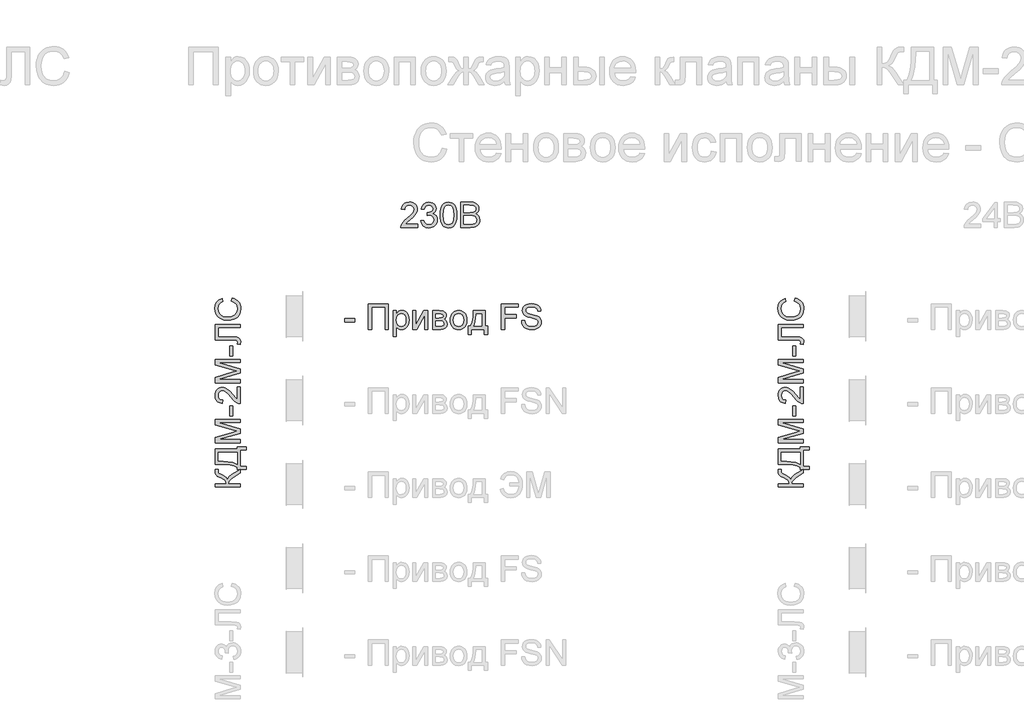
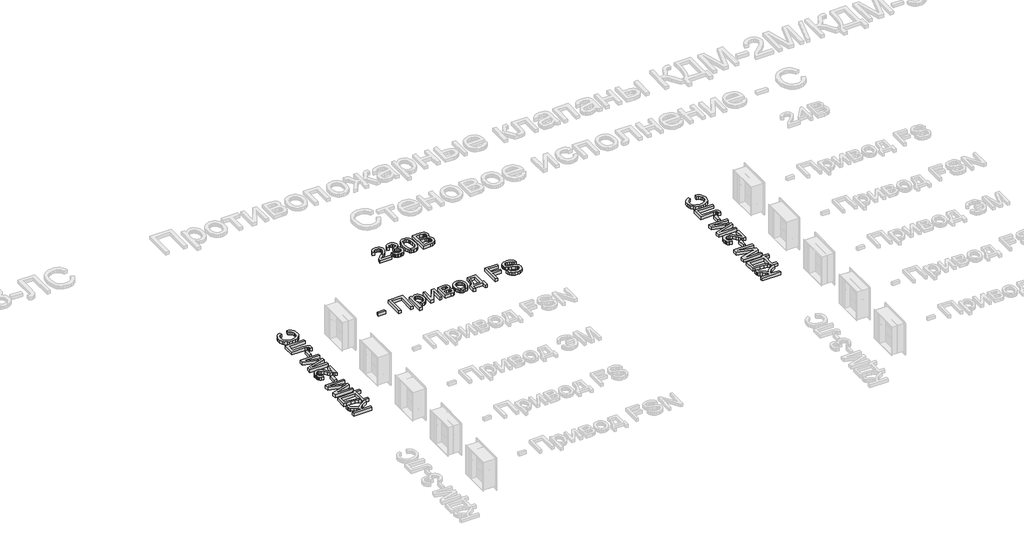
# One storey, part 15 of 23: 4 proxies.
"""IFC4 building model written with IfcOpenShell, lengths in millimetres."""

from ifc_helpers import new_model, si_unit, origin, origin_with_axes, place, context, project, spatial, polyline, outline, extrude, element, save

model = new_model("IFC4")

# Units and contexts
model_context = context("Model", 3, world=origin())
ifc_project = project(units=[si_unit("LENGTHUNIT", "METRE", prefix="MILLI")], contexts=[model_context])

# Site, building, storey
site = spatial("IfcSite", under=ifc_project)
building = spatial("IfcBuilding", under=site)
storey = spatial("IfcBuildingStorey", under=building, Name="Этаж 01", Elevation=0.0)

# Proxies
placement = place(None, origin())
element("IfcBuildingElementProxy", 1, Name="300 мм Arial", ObjectType="300 мм Arial", at=placement, inside=storey, context=model_context, shape_type="SweptSolid", body=[
    extrude(outline(polyline([(17804.7738082, -15034.3206311), (17804.7738082, -14996.6495148), (17922.4960467, -14996.6495148), (17922.4960467, -15034.3206311), (17804.7738082, -15034.3206311)])), origin_with_axes(), (0.0, 0.0, 1.0), 50.0),
    extrude(outline(polyline([(18087.3071805, -14822.4206019), (18322.7516574, -14822.4206019), (18322.7516574, -15123.7895324), (18285.0805411, -15123.7895324), (18285.0805411, -14860.0917182), (18124.9782968, -14860.0917182), (18124.9782968, -15123.7895324), (18087.3071805, -15123.7895324), (18087.3071805, -14822.4206019)])), origin_with_axes(), (0.0, 0.0, 1.0), 50.0),
    extrude(outline(polyline([(18383.9672214, -15208.5495441), (18383.9672214, -14902.4717241), (18421.6383378, -14902.4717241), (18421.6383378, -14939.4070764), (18433.9255964, -14921.1877206), (18447.684383, -14908.173895), (18463.724038, -14900.3655996), (18482.8539017, -14897.7628345), (18508.3297299, -14901.4048663), (18530.6049847, -14912.3309615), (18548.7415671, -14929.8789327), (18561.8013779, -14953.3865922), (18569.6924467, -14981.1432887), (18572.322803, -15011.438371), (18569.3521559, -15043.6556368), (18560.4402145, -15072.469994), (18545.8720875, -15096.4191119), (18525.9328834, -15114.0406595), (18502.7103324, -15124.8839813), (18478.292165, -15128.4984219), (18460.9741201, -15126.0795978), (18445.5138792, -15118.8231254), (18432.2793245, -15107.869439), (18421.6383378, -15094.3589728), (18421.6383378, -15208.5495441), (18383.9672214, -15208.5495441)]), holes=[polyline([(18421.6383378, -15014.8964618), (18425.7126308, -15048.668029), (18437.9355101, -15072.286053), (18455.970925, -15086.1919925), (18477.4828246, -15090.8273056), (18499.3442122, -15086.0264456), (18517.8394795, -15071.6238655), (18530.4486349, -15047.1413187), (18534.6516867, -15012.1005586), (18530.5498024, -14978.5129325), (18518.2441497, -14954.5638146), (18500.236326, -14940.2164168), (18479.027929, -14935.4339508), (18457.7367585, -14940.5199194), (18439.0391561, -14955.7778252), (18425.9885423, -14980.7294215), (18421.6383378, -15014.8964618)])]), origin_with_axes(), (0.0, 0.0, 1.0), 50.0),
    extrude(outline(polyline([(18614.7028088, -14902.4717241), (18652.3739251, -14902.4717241), (18652.3739251, -15071.2559835), (18744.9330351, -14902.4717241), (18793.6406113, -14902.4717241), (18793.6406113, -15123.7895324), (18755.969495, -15123.7895324), (18755.969495, -14956.0353426), (18663.9989962, -15123.7895324), (18614.7028088, -15123.7895324), (18614.7028088, -14902.4717241)])), origin_with_axes(), (0.0, 0.0, 1.0), 50.0),
    extrude(outline(polyline([(18850.1472857, -14902.4717241), (18933.1414638, -14902.4717241), (18959.8221055, -14903.7317199), (18978.6484666, -14907.5117074), (18992.4992238, -14914.6486181), (19004.2530535, -14925.9793836), (19012.2820781, -14940.7406486), (19014.9584196, -14958.1690581), (19013.3397388, -14972.2129533), (19008.4836965, -14984.325468), (19000.3718985, -14994.5617845), (18988.9859507, -15002.9770852), (19002.9286783, -15010.8037746), (19014.296232, -15023.3945359), (19021.856207, -15039.7560876), (19024.3761986, -15058.8951484), (19017.993446, -15087.6083381), (19002.8183137, -15107.8234538), (18978.7956194, -15119.7980127), (18945.8701809, -15123.7895324), (18850.1472857, -15123.7895324), (18850.1472857, -14902.4717241)]), holes=[polyline([(18887.818402, -15086.1184161), (18934.0243806, -15086.1184161), (18959.2059032, -15084.4169618), (18975.0064349, -15079.3125992), (18983.4861149, -15070.0327758), (18986.7050823, -15055.8049397), (18985.0955986, -15046.3779635), (18980.2671474, -15037.6683573), (18972.8543252, -15030.8533433), (18963.4917284, -15027.110144), (18930.3455607, -15024.9028521), (18887.818402, -15024.9028521), (18887.818402, -15086.1184161)]), polyline([(18887.818402, -14987.2317358), (18925.04806, -14987.2317358), (18955.7662065, -14985.3187494), (18970.7022156, -14977.6668039), (18975.6410313, -14971.3392336), (18977.2873033, -14963.8344409), (18974.3994296, -14952.5956459), (18965.7358086, -14945.3667647), (18950.0824297, -14941.4488215), (18926.2252823, -14940.1428404), (18887.818402, -14940.1428404), (18887.818402, -14987.2317358)])]), origin_with_axes(), (0.0, 0.0, 1.0), 50.0),
    extrude(outline(polyline([(19062.047315, -15013.1306282), (19064.0844615, -14984.4680223), (19070.1959011, -14959.7693448), (19080.3816339, -14939.0345959), (19094.6416597, -14922.2637754), (19108.9982546, -14911.5446138), (19124.8447715, -14903.8880698), (19142.1812106, -14899.2941433), (19161.0075717, -14897.7628345), (19181.7906051, -14899.6275364), (19200.5824773, -14905.221642), (19217.3831882, -14914.5451513), (19232.1927377, -14927.5980643), (19244.2799605, -14943.9389227), (19252.9136911, -14963.126268), (19258.0939294, -14985.1601003), (19259.8206756, -15010.0404195), (19256.767255, -15048.0978119), (19247.6069933, -15077.068519), (19232.606605, -15098.7643596), (19212.0328044, -15114.9971527), (19187.5962429, -15125.1231046), (19161.0075717, -15128.4984219), (19139.9210355, -15126.6406178), (19120.9544194, -15121.0672056), (19104.1077233, -15111.7781852), (19089.3809472, -15098.7735567), (19077.4224831, -15082.2740492), (19068.880723, -15062.500392), (19063.755667, -15039.452585), (19062.047315, -15013.1306282)]), holes=[polyline([(19099.7184313, -15013.0570518), (19104.0778329, -15047.1505157), (19117.1560378, -15071.4399245), (19136.8377246, -15085.9804603), (19161.0075717, -15090.8273056), (19185.0670541, -15085.9528692), (19204.7119527, -15071.3295599), (19217.7901576, -15046.7182544), (19222.1495593, -15011.8798294), (19217.7625665, -14978.7796469), (19204.6015881, -14954.821332), (19184.9290984, -14940.2807961), (19161.0075717, -14935.4339508), (19136.8377246, -14940.262402), (19117.1560378, -14954.7477556), (19104.0778329, -14978.981982), (19099.7184313, -15013.0570518)])]), origin_with_axes(), (0.0, 0.0, 1.0), 50.0),
    extrude(outline(polyline([(19335.1629082, -14902.4717241), (19476.4295943, -14902.4717241), (19476.4295943, -15086.1184161), (19504.6829316, -15086.1184161), (19504.6829316, -15185.0050964), (19467.0118152, -15185.0050964), (19467.0118152, -15123.7895324), (19311.6184605, -15123.7895324), (19311.6184605, -15185.0050964), (19273.9473442, -15185.0050964), (19273.9473442, -15086.1184161), (19297.4917919, -15086.1184161), (19314.6075017, -15055.1887373), (19326.5912577, -15014.2710624), (19333.4430598, -14963.3653913), (19335.1629082, -14902.4717241)]), holes=[polyline([(19368.1251349, -14940.1428404), (19365.0349262, -14986.2660455), (19359.2959671, -15025.9697099), (19350.9082576, -15059.2538334), (19339.8717977, -15086.1184161), (19438.758478, -15086.1184161), (19438.758478, -14940.1428404), (19368.1251349, -14940.1428404)])]), origin_with_axes(), (0.0, 0.0, 1.0), 50.0),
    extrude(outline(polyline([(19669.4940654, -15123.7895324), (19669.4940654, -14822.4206019), (19871.9763155, -14822.4206019), (19871.9763155, -14860.0917182), (19707.1651817, -14860.0917182), (19707.1651817, -14949.5606195), (19848.4318678, -14949.5606195), (19848.4318678, -14987.2317358), (19707.1651817, -14987.2317358), (19707.1651817, -15123.7895324), (19669.4940654, -15123.7895324)])), origin_with_axes(), (0.0, 0.0, 1.0), 50.0),
    extrude(outline(polyline([(19909.6474318, -15020.1939625), (19947.3185481, -15020.1939625), (19951.6411616, -15041.0988569), (19959.458654, -15057.901867), (19971.6539421, -15071.2375894), (19989.1099428, -15081.7406203), (20010.4470985, -15088.5556343), (20034.2858518, -15090.8273056), (20055.2735196, -15089.1074573), (20073.6492253, -15083.9479123), (20088.539249, -15075.780932), (20099.0698712, -15065.0387777), (20105.3330621, -15052.7055339), (20107.4207924, -15039.7652847), (20105.857294, -15027.1561293), (20101.1667985, -15016.2576252), (20091.6386549, -15006.9594078), (20075.5622117, -14999.1511124), (20020.7110062, -14984.7669264), (19984.7045559, -14975.2479798), (19961.665946, -14966.1888856), (19942.9131613, -14953.5153509), (19929.6234242, -14938.1562776), (19921.7047642, -14920.4427595), (19919.0652109, -14900.7058905), (19922.3301636, -14878.6421678), (19932.1250217, -14858.0683673), (19948.1922679, -14840.6307607), (19970.2743846, -14827.97562), (19996.7802824, -14820.2776893), (20026.1188715, -14817.7117124), (20057.9038759, -14820.3972509), (20085.7157547, -14828.4538666), (20108.5612266, -14841.7160126), (20125.4470102, -14860.0181418), (20136.1339822, -14882.2198202), (20140.3830192, -14907.1806136), (20102.7119029, -14907.1806136), (20095.7957214, -14884.7030237), (20081.3747472, -14868.4794277), (20058.841975, -14858.6569784), (20027.5903995, -14855.3828287), (19995.60306, -14858.6201902), (19973.658899, -14868.3322749), (19960.9669702, -14882.6244904), (19956.7363272, -14899.6022445), (19959.7345655, -14914.078401), (19968.7292803, -14925.7218662), (19989.9928596, -14936.1329266), (20030.2391499, -14946.7647163), (20071.7730271, -14956.8630771), (20096.8993674, -14965.6738508), (20118.3744789, -14979.340667), (20133.3564731, -14996.2080564), (20142.1580498, -15016.0920783), (20145.0919088, -15038.8087915), (20141.7165914, -15062.0313424), (20131.5906395, -15083.8743359), (20115.1279202, -15102.6731058), (20092.7423008, -15116.7629863), (20065.8225358, -15125.564563), (20035.7573798, -15128.4984219), (19998.8496186, -15125.3346367), (19968.4717629, -15115.8432813), (19944.2743246, -15099.9875673), (19925.907816, -15077.7307066), (19914.1171981, -15050.6178035), (19909.6474318, -15020.1939625)])), origin_with_axes(), (0.0, 0.0, 1.0), 50.0),
])
element("IfcBuildingElementProxy", 2, Name="300 мм Arial", ObjectType="300 мм Arial", at=placement, inside=storey, context=model_context, shape_type="SweptSolid", body=[
    extrude(outline(polyline([(16262.355345, -17002.4984014), (16262.355345, -16964.8272851), (16394.2042521, -16964.8272851), (16391.7118516, -16939.3238658), (16384.23465, -16922.7047967), (16366.6406936, -16909.2679068), (16333.7980285, -16893.3110252), (16291.6755401, -16872.5256925), (16280.2620012, -16862.5009082), (16270.8166309, -16848.9812448), (16264.4706665, -16832.9323928), (16262.355345, -16815.3200423), (16262.7968034, -16790.5983722), (16300.4679197, -16790.5983722), (16300.2471905, -16798.9125053), (16300.0264613, -16807.2266384), (16302.2889356, -16824.4803039), (16309.0763584, -16836.657198), (16323.3317857, -16847.1418349), (16347.8511207, -16859.0244233), (16378.3853263, -16873.6017474), (16395.0871689, -16885.6958679), (16410.6853655, -16911.705125), (16416.8933742, -16897.1140054), (16427.7183019, -16882.6240533), (16463.2189144, -16853.9476518), (16563.7242755, -16790.5983722), (16563.7242755, -16834.3027532), (16478.817111, -16887.8663717), (16451.5846463, -16908.5505369), (16434.4873306, -16925.5742762), (16425.4650246, -16942.9842916), (16422.4575893, -16964.8272851), (16563.7242755, -16964.8272851), (16563.7242755, -17002.4984014), (16262.355345, -17002.4984014)])), origin_with_axes(), (0.0, 0.0, 1.0), 50.0),
    extrude(outline(polyline([(16262.355345, -16729.3828082), (16262.355345, -16550.4450057), (16526.0531592, -16550.4450057), (16526.0531592, -16522.1916685), (16634.3576186, -16522.1916685), (16634.3576186, -16559.8627848), (16563.7242755, -16559.8627848), (16563.7242755, -16752.9272559), (16634.3576186, -16752.9272559), (16634.3576186, -16790.5983722), (16563.7242755, -16790.5983722), (16526.0531592, -16790.5983722), (16526.0531592, -16767.0539245), (16491.8815204, -16750.5728111), (16443.8131392, -16738.8005873), (16381.8480156, -16731.737253), (16305.9861497, -16729.3828082), (16262.355345, -16729.3828082)]), holes=[polyline([(16300.0264613, -16588.116122), (16300.0264613, -16691.7116919), (16315.1831995, -16691.7116919), (16418.4108874, -16699.3636374), (16478.0629529, -16710.6944028), (16526.0531592, -16729.3828082), (16526.0531592, -16588.116122), (16300.0264613, -16588.116122)])]), origin_with_axes(), (0.0, 0.0, 1.0), 50.0),
    extrude(outline(polyline([(16563.7242755, -16475.1027731), (16262.355345, -16475.1027731), (16262.355345, -16410.2819656), (16474.7704091, -16348.6249432), (16519.1369777, -16336.1905318), (16471.0915891, -16322.7260507), (16262.355345, -16262.0990979), (16262.355345, -16197.2782904), (16563.7242755, -16197.2782904), (16563.7242755, -16234.9494067), (16300.0264613, -16234.9494067), (16563.7242755, -16310.6595213), (16563.7242755, -16361.7215422), (16300.0264613, -16437.4316568), (16563.7242755, -16437.4316568), (16563.7242755, -16475.1027731)])), origin_with_axes(), (0.0, 0.0, 1.0), 50.0),
    extrude(outline(polyline([(16474.2553743, -16154.8982845), (16436.584258, -16154.8982845), (16436.584258, -16037.1760461), (16474.2553743, -16037.1760461), (16474.2553743, -16154.8982845)])), origin_with_axes(), (0.0, 0.0, 1.0), 50.0),
    extrude(outline(polyline([(16526.0531592, -15811.1493482), (16563.7242755, -15811.1493482), (16563.7242755, -16008.9227088), (16537.7518066, -16004.8760069), (16517.4539175, -15995.5869865), (16497.7630338, -15981.9937468), (16477.152445, -15962.3304542), (16454.0954409, -15934.831275), (16417.9878231, -15894.1803145), (16391.3347725, -15869.7897383), (16369.7033112, -15857.5944501), (16348.6604611, -15853.5293541), (16329.7973118, -15857.3645239), (16314.1163418, -15868.8700333), (16303.5489314, -15886.5559602), (16300.0264613, -15908.9323826), (16303.466158, -15932.430845), (16313.785248, -15950.686989), (16330.1743908, -15962.4684099), (16351.8242463, -15966.542703), (16347.1153567, -16004.2138193), (16310.6766451, -15995.0811488), (16296.1407078, -15986.5347902), (16284.0603828, -15975.3350827), (16274.5644288, -15961.7395437), (16267.7816045, -15946.0056906), (16262.355345, -15908.1230422), (16263.8636612, -15887.9332184), (16268.3886098, -15869.9644822), (16275.9301907, -15854.2168336), (16286.4884039, -15840.6902724), (16299.2815003, -15829.8262573), (16313.5277306, -15822.0662464), (16329.2270947, -15817.4102399), (16346.3795927, -15815.8582378), (16364.3966134, -15817.5321009), (16382.1009345, -15822.5536901), (16400.1087581, -15831.4656314), (16419.0362868, -15844.8105508), (16441.6334383, -15866.0833272), (16470.6501307, -15898.7788395), (16506.8865072, -15942.1153385), (16526.0531592, -15959.1114867), (16526.0531592, -15811.1493482)])), origin_with_axes(), (0.0, 0.0, 1.0), 50.0),
    extrude(outline(polyline([(16563.7242755, -15759.3515633), (16262.355345, -15759.3515633), (16262.355345, -15694.5307558), (16474.7704091, -15632.8737334), (16519.1369777, -15620.4393219), (16471.0915891, -15606.9748409), (16262.355345, -15546.3478881), (16262.355345, -15481.5270806), (16563.7242755, -15481.5270806), (16563.7242755, -15519.1981969), (16300.0264613, -15519.1981969), (16563.7242755, -15594.9083115), (16563.7242755, -15645.9703324), (16300.0264613, -15721.680447), (16563.7242755, -15721.680447), (16563.7242755, -15759.3515633)])), origin_with_axes(), (0.0, 0.0, 1.0), 50.0),
    extrude(outline(polyline([(16474.2553743, -15439.1470747), (16436.584258, -15439.1470747), (16436.584258, -15321.4248363), (16474.2553743, -15321.4248363), (16474.2553743, -15439.1470747)])), origin_with_axes(), (0.0, 0.0, 1.0), 50.0),
    extrude(outline(polyline([(16262.355345, -15250.7914932), (16262.355345, -15067.1448012), (16563.7242755, -15067.1448012), (16563.7242755, -15104.8159175), (16300.0264613, -15104.8159175), (16300.0264613, -15213.1203769), (16453.8011353, -15213.1203769), (16522.4111274, -15217.4981726), (16541.7985086, -15224.2763984), (16556.3298474, -15235.8554842), (16565.4073356, -15251.7111982), (16568.433165, -15271.3193085), (16563.7242755, -15302.5892781), (16526.0531592, -15297.8803886), (16530.7620487, -15279.8541708), (16528.23286, -15267.1162567), (16520.6452939, -15258.0387685), (16503.6767368, -15252.603312), (16473.0045755, -15250.7914932), (16262.355345, -15250.7914932)])), origin_with_axes(), (0.0, 0.0, 1.0), 50.0),
    extrude(outline(polyline([(16456.5970385, -14789.3203184), (16466.3091232, -14751.6492021), (16489.7363085, -14759.1034111), (16510.2066422, -14769.0316264), (16527.7201245, -14781.4338482), (16542.2767552, -14796.3100763), (16553.7201845, -14813.3246186), (16561.8940626, -14832.1417827), (16566.7983894, -14852.7615685), (16568.433165, -14875.1839761), (16563.4851522, -14918.8791601), (16548.6411137, -14953.5796293), (16524.4160843, -14980.1774975), (16491.3250988, -14999.5648787), (16452.4215778, -15011.4014819), (16410.7589419, -15015.3470163), (16366.8154376, -15010.8864471), (16328.8684098, -14997.5047395), (16298.122672, -14975.9008693), (16275.7830379, -14946.7738124), (16262.1806011, -14912.229693), (16257.6464555, -14874.3746357), (16263.5141733, -14833.0706847), (16270.8488206, -14815.1019485), (16281.1173268, -14798.9220385), (16294.0483789, -14784.7976692), (16309.370664, -14772.9955549), (16347.1889331, -14756.3580917), (16356.1652538, -14794.029208), (16328.6936658, -14807.0890188), (16309.8489106, -14824.9312956), (16298.9504065, -14847.7767675), (16295.3175718, -14875.8461637), (16299.3458797, -14908.2013852), (16311.4308032, -14934.7808593), (16330.3031495, -14954.9499897), (16354.6937258, -14968.0741799), (16382.2664814, -14975.2754699), (16410.6853655, -14977.6759), (16445.4870022, -14974.8340115), (16475.5797494, -14966.3083463), (16499.8139759, -14951.7770075), (16517.0400503, -14930.9180984), (16527.3315491, -14905.9113198), (16530.7620487, -14878.9363725), (16526.0899474, -14847.4916589), (16512.0736434, -14821.2892638), (16488.8602895, -14801.5064095), (16456.5970385, -14789.3203184)])), origin_with_axes(), (0.0, 0.0, 1.0), 50.0),
])
element("IfcBuildingElementProxy", 3, Name="300 мм Arial", ObjectType="300 мм Arial", at=placement, inside=storey, context=model_context, shape_type="SweptSolid", body=[
    extrude(outline(polyline([(18672.9728635, -13873.066365), (18672.9728635, -13910.7374813), (18475.1995029, -13910.7374813), (18479.2462048, -13884.7650124), (18488.5352252, -13864.4671233), (18502.1284649, -13844.7762395), (18521.7917576, -13824.1656508), (18549.2909367, -13801.1086467), (18589.9418972, -13765.0010289), (18614.3324735, -13738.3479783), (18626.5277616, -13716.716517), (18630.5928576, -13695.6736669), (18626.7576878, -13676.8105176), (18615.2521784, -13661.1295476), (18597.5662515, -13650.5621372), (18575.1898292, -13647.0396671), (18551.6913667, -13650.4793638), (18533.4352227, -13660.7984538), (18521.6538018, -13677.1875966), (18517.5795087, -13698.8374521), (18479.9083924, -13694.1285625), (18489.041063, -13657.6898509), (18497.5874216, -13643.1539136), (18508.787129, -13631.0735886), (18522.382668, -13621.5776346), (18538.1165211, -13614.7948103), (18575.9991696, -13609.3685508), (18596.1889933, -13610.876867), (18614.1577295, -13615.4018156), (18629.9053782, -13622.9433965), (18643.4319393, -13633.5016097), (18654.2959544, -13646.2947061), (18662.0559653, -13660.5409364), (18666.7119718, -13676.2403005), (18668.263974, -13693.3927985), (18666.5901109, -13711.4098192), (18661.5685216, -13729.1141403), (18652.6565803, -13747.1219639), (18639.3116609, -13766.0494926), (18618.0388846, -13788.6466441), (18585.3433722, -13817.6633365), (18542.0068732, -13853.899713), (18525.010725, -13873.066365), (18672.9728635, -13873.066365)])), origin_with_axes(), (0.0, 0.0, 1.0), 50.0),
    extrude(outline(polyline([(18710.6439798, -13830.6863591), (18748.3150961, -13825.9774696), (18756.7487908, -13849.650676), (18769.1004288, -13865.6351487), (18785.9770154, -13874.7402281), (18807.9855557, -13877.7752545), (18833.8108718, -13873.5997939), (18853.7500759, -13861.0734119), (18866.4971871, -13842.3850066), (18870.7462241, -13819.7234757), (18866.5339753, -13798.211576), (18853.8972287, -13780.7647724), (18834.767365, -13769.2040807), (18811.0757645, -13765.3505168), (18784.6618372, -13769.4707951), (18788.855692, -13731.7996788), (18794.8889567, -13732.2411372), (18817.4585171, -13729.5372046), (18837.6368445, -13721.4254066), (18851.8738777, -13707.7034081), (18856.6195555, -13688.1688742), (18853.1798588, -13671.899293), (18842.8607689, -13658.7015264), (18827.1154195, -13649.955132), (18807.3969445, -13647.0396671), (18787.6416814, -13649.9827231), (18771.4916618, -13658.811891), (18759.7010439, -13673.5271708), (18753.0239856, -13694.1285625), (18715.3528693, -13689.419673), (18726.4445115, -13655.5929235), (18746.1813805, -13630.3378246), (18773.183919, -13614.6108693), (18806.0725693, -13609.3685508), (18829.7549728, -13611.9529219), (18851.5059957, -13619.7060349), (18869.8449132, -13631.9381112), (18883.2910001, -13647.9593721), (18891.5407539, -13666.4178512), (18894.2906718, -13685.9615822), (18891.6787096, -13704.171741), (18883.8428231, -13720.6896426), (18870.8933769, -13734.7611289), (18852.9407355, -13745.6320418), (18876.5219714, -13755.1601855), (18893.9963662, -13771.3837815), (18904.8120968, -13793.419913), (18908.4173404, -13820.3856633), (18906.6147186, -13839.4971329), (18901.2068533, -13857.1002864), (18892.1937444, -13873.1951237), (18879.575392, -13887.7816448), (18864.2025231, -13899.8849624), (18846.9258649, -13908.5301893), (18827.7454174, -13913.7173254), (18806.6611805, -13915.4463708), (18787.6048932, -13913.9702443), (18770.240863, -13909.5418648), (18754.56909, -13902.1612323), (18740.5895742, -13891.8283467), (18728.8679341, -13879.1502135), (18719.9697884, -13864.7338378), (18713.8951369, -13848.5792197), (18710.6439798, -13830.6863591)])), origin_with_axes(), (0.0, 0.0, 1.0), 50.0),
    extrude(outline(polyline([(18941.3795672, -13762.4810372), (18944.1478792, -13714.2425106), (18952.4528152, -13675.771251), (18966.2116018, -13646.4786471), (18985.3414656, -13625.7760878), (19009.9803622, -13613.4704351), (19040.2662475, -13609.3685508), (19063.4796014, -13611.796572), (19084.2649341, -13619.0806355), (19101.6473584, -13630.9356328), (19114.6519869, -13647.0764553), (19124.4744362, -13667.3651474), (19132.3103227, -13691.6637532), (19137.4422765, -13722.5198555), (19139.1529278, -13762.4810372), (19136.4122069, -13810.4436523), (19128.1900443, -13848.8229415), (19114.5140312, -13878.1431365), (19095.4117586, -13898.9284692), (19070.7176796, -13911.3168954), (19040.2662475, -13915.4463708), (19019.5177029, -13913.6529461), (19001.1236032, -13908.2726719), (18985.0839482, -13899.3055483), (18971.398738, -13886.7515752), (18958.2653507, -13864.0578546), (18948.8843599, -13835.7815248), (18943.2557653, -13801.9225856), (18941.3795672, -13762.4810372)]), holes=[polyline([(18979.0506835, -13762.4074608), (18983.4652674, -13821.6640532), (18988.9834973, -13841.9320519), (18996.7090192, -13855.9598522), (19016.4274942, -13872.3214039), (19040.2662475, -13877.7752545), (19064.1050008, -13872.3030098), (19083.8234757, -13855.8862758), (19091.5489976, -13841.8354829), (19097.0672275, -13821.5720827), (19101.4818115, -13762.4074608), (19097.2143803, -13704.4844407), (19091.8800914, -13684.2831206), (19084.4120869, -13669.9219272), (19064.7304002, -13652.7602322), (19039.8247891, -13647.0396671), (19016.2435532, -13652.0796505), (18997.2976304, -13667.1996005), (18989.3145911, -13682.8345853), (18983.6124202, -13703.9142236), (18979.0506835, -13762.4074608)])]), origin_with_axes(), (0.0, 0.0, 1.0), 50.0),
    extrude(outline(polyline([(19186.2418232, -13910.7374813), (19186.2418232, -13609.3685508), (19301.2417349, -13609.3685508), (19332.8703894, -13611.5850399), (19357.5644683, -13618.2345069), (19376.491997, -13629.4824989), (19390.8210007, -13645.4945628), (19399.8433066, -13664.3301209), (19402.8507419, -13684.0485959), (19400.3215532, -13702.1943753), (19392.7339871, -13719.2549028), (19380.0328612, -13734.1817147), (19362.1629933, -13745.9263474), (19383.509346, -13757.0731719), (19399.2822866, -13774.0325319), (19409.0219624, -13795.6823873), (19412.268521, -13820.9006981), (19410.052032, -13841.915957), (19403.4025649, -13861.4045057), (19393.4789481, -13877.9775896), (19381.4400098, -13890.2464542), (19366.6971388, -13899.1308043), (19348.661724, -13905.5503452), (19300.3588181, -13910.7374813), (19186.2418232, -13910.7374813)]), holes=[polyline([(19223.9129395, -13731.7996788), (19292.7068726, -13731.7996788), (19332.8795864, -13728.5623173), (19346.9418757, -13722.979708), (19357.0494335, -13714.6195897), (19363.1470776, -13703.6107209), (19365.1796256, -13690.0818606), (19363.2850333, -13676.9484733), (19357.6012565, -13665.5073433), (19348.3858125, -13656.5770079), (19335.8962188, -13650.9760045), (19287.4829482, -13647.0396671), (19223.9129395, -13647.0396671), (19223.9129395, -13731.7996788)]), polyline([(19223.9129395, -13873.066365), (19301.1681585, -13873.066365), (19329.1271901, -13871.594837), (19352.7820024, -13863.3910685), (19368.4537754, -13846.6524377), (19373.0614974, -13834.8250316), (19374.5974047, -13821.2685801), (19372.7947829, -13805.5232307), (19367.3869176, -13791.9851732), (19357.9415474, -13781.3993688), (19344.0264109, -13774.5107785), (19324.317133, -13770.730791), (19297.4893385, -13769.4707951), (19223.9129395, -13769.4707951), (19223.9129395, -13873.066365)])]), origin_with_axes(), (0.0, 0.0, 1.0), 50.0),
])
element("IfcBuildingElementProxy", 4, Name="300 мм Arial", ObjectType="300 мм Arial", at=placement, inside=storey, context=model_context, shape_type="SweptSolid", body=[
    extrude(outline(polyline([(22962.355345, -17002.4984014), (22962.355345, -16964.8272851), (23094.2042521, -16964.8272851), (23091.7118516, -16939.3238658), (23084.23465, -16922.7047967), (23066.6406936, -16909.2679068), (23033.7980285, -16893.3110252), (22991.6755401, -16872.5256925), (22980.2620012, -16862.5009082), (22970.8166309, -16848.9812448), (22964.4706665, -16832.9323928), (22962.355345, -16815.3200423), (22962.7968034, -16790.5983722), (23000.4679197, -16790.5983722), (23000.2471905, -16798.9125053), (23000.0264613, -16807.2266384), (23002.2889356, -16824.4803039), (23009.0763584, -16836.657198), (23023.3317857, -16847.1418349), (23047.8511207, -16859.0244233), (23078.3853263, -16873.6017474), (23095.0871689, -16885.6958679), (23110.6853655, -16911.705125), (23116.8933742, -16897.1140054), (23127.7183019, -16882.6240533), (23163.2189144, -16853.9476518), (23263.7242755, -16790.5983722), (23263.7242755, -16834.3027532), (23178.817111, -16887.8663717), (23151.5846463, -16908.5505369), (23134.4873306, -16925.5742762), (23125.4650246, -16942.9842916), (23122.4575893, -16964.8272851), (23263.7242755, -16964.8272851), (23263.7242755, -17002.4984014), (22962.355345, -17002.4984014)])), origin_with_axes(), (0.0, 0.0, 1.0), 50.0),
    extrude(outline(polyline([(22962.355345, -16729.3828082), (22962.355345, -16550.4450057), (23226.0531592, -16550.4450057), (23226.0531592, -16522.1916685), (23334.3576186, -16522.1916685), (23334.3576186, -16559.8627848), (23263.7242755, -16559.8627848), (23263.7242755, -16752.9272559), (23334.3576186, -16752.9272559), (23334.3576186, -16790.5983722), (23263.7242755, -16790.5983722), (23226.0531592, -16790.5983722), (23226.0531592, -16767.0539245), (23191.8815204, -16750.5728111), (23143.8131392, -16738.8005873), (23081.8480156, -16731.737253), (23005.9861497, -16729.3828082), (22962.355345, -16729.3828082)]), holes=[polyline([(23000.0264613, -16588.116122), (23000.0264613, -16691.7116919), (23015.1831995, -16691.7116919), (23118.4108874, -16699.3636374), (23178.0629529, -16710.6944028), (23226.0531592, -16729.3828082), (23226.0531592, -16588.116122), (23000.0264613, -16588.116122)])]), origin_with_axes(), (0.0, 0.0, 1.0), 50.0),
    extrude(outline(polyline([(23263.7242755, -16475.1027731), (22962.355345, -16475.1027731), (22962.355345, -16410.2819656), (23174.7704091, -16348.6249432), (23219.1369777, -16336.1905318), (23171.0915891, -16322.7260507), (22962.355345, -16262.0990979), (22962.355345, -16197.2782904), (23263.7242755, -16197.2782904), (23263.7242755, -16234.9494067), (23000.0264613, -16234.9494067), (23263.7242755, -16310.6595213), (23263.7242755, -16361.7215422), (23000.0264613, -16437.4316568), (23263.7242755, -16437.4316568), (23263.7242755, -16475.1027731)])), origin_with_axes(), (0.0, 0.0, 1.0), 50.0),
    extrude(outline(polyline([(23174.2553743, -16154.8982845), (23136.584258, -16154.8982845), (23136.584258, -16037.1760461), (23174.2553743, -16037.1760461), (23174.2553743, -16154.8982845)])), origin_with_axes(), (0.0, 0.0, 1.0), 50.0),
    extrude(outline(polyline([(23226.0531592, -15811.1493482), (23263.7242755, -15811.1493482), (23263.7242755, -16008.9227088), (23237.7518066, -16004.8760069), (23217.4539175, -15995.5869865), (23197.7630338, -15981.9937468), (23177.152445, -15962.3304542), (23154.0954409, -15934.831275), (23117.9878231, -15894.1803145), (23091.3347725, -15869.7897383), (23069.7033112, -15857.5944501), (23048.6604611, -15853.5293541), (23029.7973118, -15857.3645239), (23014.1163418, -15868.8700333), (23003.5489314, -15886.5559602), (23000.0264613, -15908.9323826), (23003.466158, -15932.430845), (23013.785248, -15950.686989), (23030.1743908, -15962.4684099), (23051.8242463, -15966.542703), (23047.1153567, -16004.2138193), (23010.6766451, -15995.0811488), (22996.1407078, -15986.5347902), (22984.0603828, -15975.3350827), (22974.5644288, -15961.7395437), (22967.7816045, -15946.0056906), (22962.355345, -15908.1230422), (22963.8636612, -15887.9332184), (22968.3886098, -15869.9644822), (22975.9301907, -15854.2168336), (22986.4884039, -15840.6902724), (22999.2815003, -15829.8262573), (23013.5277306, -15822.0662464), (23029.2270947, -15817.4102399), (23046.3795927, -15815.8582378), (23064.3966134, -15817.5321009), (23082.1009345, -15822.5536901), (23100.1087581, -15831.4656314), (23119.0362868, -15844.8105508), (23141.6334383, -15866.0833272), (23170.6501307, -15898.7788395), (23206.8865072, -15942.1153385), (23226.0531592, -15959.1114867), (23226.0531592, -15811.1493482)])), origin_with_axes(), (0.0, 0.0, 1.0), 50.0),
    extrude(outline(polyline([(23263.7242755, -15759.3515633), (22962.355345, -15759.3515633), (22962.355345, -15694.5307558), (23174.7704091, -15632.8737334), (23219.1369777, -15620.4393219), (23171.0915891, -15606.9748409), (22962.355345, -15546.3478881), (22962.355345, -15481.5270806), (23263.7242755, -15481.5270806), (23263.7242755, -15519.1981969), (23000.0264613, -15519.1981969), (23263.7242755, -15594.9083115), (23263.7242755, -15645.9703324), (23000.0264613, -15721.680447), (23263.7242755, -15721.680447), (23263.7242755, -15759.3515633)])), origin_with_axes(), (0.0, 0.0, 1.0), 50.0),
    extrude(outline(polyline([(23174.2553743, -15439.1470747), (23136.584258, -15439.1470747), (23136.584258, -15321.4248363), (23174.2553743, -15321.4248363), (23174.2553743, -15439.1470747)])), origin_with_axes(), (0.0, 0.0, 1.0), 50.0),
    extrude(outline(polyline([(22962.355345, -15250.7914932), (22962.355345, -15067.1448012), (23263.7242755, -15067.1448012), (23263.7242755, -15104.8159175), (23000.0264613, -15104.8159175), (23000.0264613, -15213.1203769), (23153.8011353, -15213.1203769), (23222.4111274, -15217.4981726), (23241.7985086, -15224.2763984), (23256.3298474, -15235.8554842), (23265.4073356, -15251.7111982), (23268.433165, -15271.3193085), (23263.7242755, -15302.5892781), (23226.0531592, -15297.8803886), (23230.7620487, -15279.8541708), (23228.23286, -15267.1162567), (23220.6452939, -15258.0387685), (23203.6767368, -15252.603312), (23173.0045755, -15250.7914932), (22962.355345, -15250.7914932)])), origin_with_axes(), (0.0, 0.0, 1.0), 50.0),
    extrude(outline(polyline([(23156.5970385, -14789.3203184), (23166.3091232, -14751.6492021), (23189.7363085, -14759.1034111), (23210.2066422, -14769.0316264), (23227.7201245, -14781.4338482), (23242.2767552, -14796.3100763), (23253.7201845, -14813.3246186), (23261.8940626, -14832.1417827), (23266.7983894, -14852.7615685), (23268.433165, -14875.1839761), (23263.4851522, -14918.8791601), (23248.6411137, -14953.5796293), (23224.4160843, -14980.1774975), (23191.3250988, -14999.5648787), (23152.4215778, -15011.4014819), (23110.7589419, -15015.3470163), (23066.8154376, -15010.8864471), (23028.8684098, -14997.5047395), (22998.122672, -14975.9008693), (22975.7830379, -14946.7738124), (22962.1806011, -14912.229693), (22957.6464555, -14874.3746357), (22963.5141733, -14833.0706847), (22970.8488206, -14815.1019485), (22981.1173268, -14798.9220385), (22994.0483789, -14784.7976692), (23009.370664, -14772.9955549), (23047.1889331, -14756.3580917), (23056.1652538, -14794.029208), (23028.6936658, -14807.0890188), (23009.8489106, -14824.9312956), (22998.9504065, -14847.7767675), (22995.3175718, -14875.8461637), (22999.3458797, -14908.2013852), (23011.4308032, -14934.7808593), (23030.3031495, -14954.9499897), (23054.6937258, -14968.0741799), (23082.2664814, -14975.2754699), (23110.6853655, -14977.6759), (23145.4870022, -14974.8340115), (23175.5797494, -14966.3083463), (23199.8139759, -14951.7770075), (23217.0400503, -14930.9180984), (23227.3315491, -14905.9113198), (23230.7620487, -14878.9363725), (23226.0899474, -14847.4916589), (23212.0736434, -14821.2892638), (23188.8602895, -14801.5064095), (23156.5970385, -14789.3203184)])), origin_with_axes(), (0.0, 0.0, 1.0), 50.0),
])

save(model, "model.ifc")
